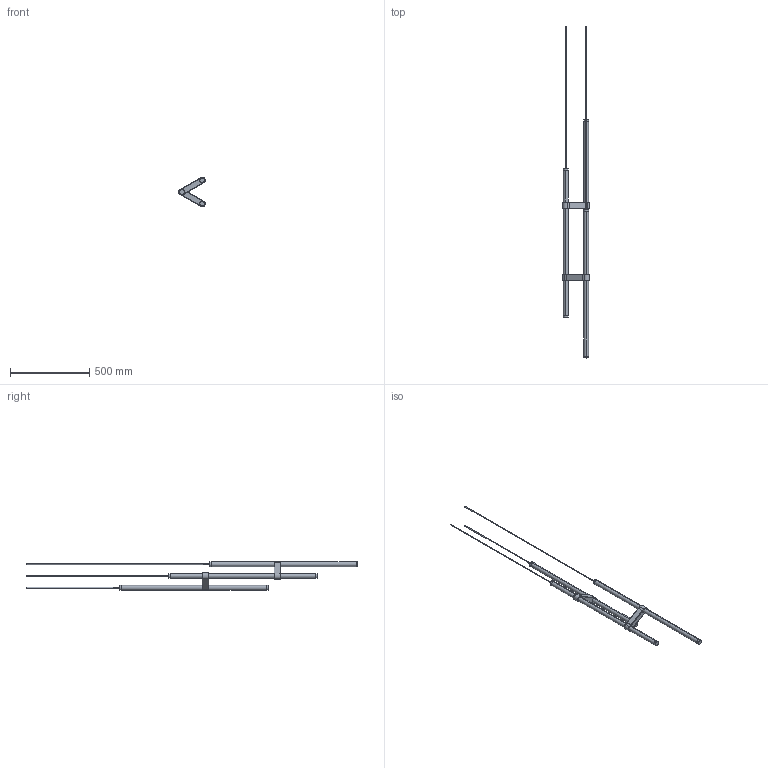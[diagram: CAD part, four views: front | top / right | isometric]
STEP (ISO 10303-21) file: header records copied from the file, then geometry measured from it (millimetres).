
FILE_DESCRIPTION (( 'STEP AP203' ), '1' );
FILE_NAME ('SPPARA05LAXXXXXXX-PER 3D.STEP', '2026-07-08T08:20:53', ( '' ), ( '' ), 'SwSTEP 2.0', 'SolidWorks 2026', '' );
FILE_SCHEMA (( 'CONFIG_CONTROL_DESIGN' ));
Length unit declared in the file: millimetre
Products named in the file (1): SPPARA05LAXXXXXXX-PER 3D
Bounding box: 166.47 x 2091.59 x 186.3 mm (x, y, z)
Surface area: 372846.8 mm2 (no closed solid volume)
Topology: 0 solids, 23 shells, 176 faces, 591 edges, 419 vertices
Faces by surface type: cylinder 79, plane 50, torus 34, bspline 9, cone 4
Entity records: 22384 total; most frequent: CARTESIAN_POINT 17616, DIRECTION 956, ORIENTED_EDGE 826, EDGE_CURVE 591, VERTEX_POINT 419, AXIS2_PLACEMENT_3D 387, CIRCLE 219, B_SPLINE_CURVE_WITH_KNOTS 190
